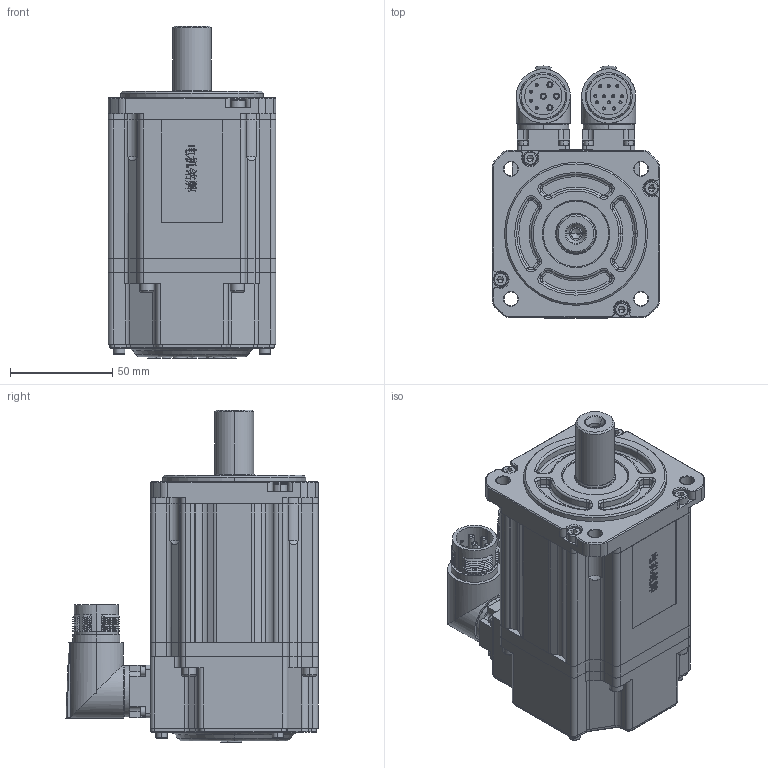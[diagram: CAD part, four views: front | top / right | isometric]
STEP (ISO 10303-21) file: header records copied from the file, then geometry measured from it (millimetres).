
FILE_DESCRIPTION (( 'STEP AP203' ), '1' );
FILE_NAME ('MC20-080-3L30-N751-0¡õPL-NNNN.STEP', '2025-09-19T07:41:29', ( '' ), ( '' ), 'SwSTEP 2.0', 'SolidWorks 2014', '' );
FILE_SCHEMA (( 'CONFIG_CONTROL_DESIGN' ));
Products named in the file (1): MC20-080-3L30-N751-0¡õPL-NNNN
Bounding box: 82 x 123.35 x 162.5 mm (x, y, z)
Volume: 867253.9 mm3; surface area: 142756.6 mm2
Topology: 27 solids, 27 shells, 2462 faces, 6054 edges, 3763 vertices
Faces by surface type: plane 1187, cylinder 540, cone 315, bspline 246, torus 174
Entity records: 80531 total; most frequent: CARTESIAN_POINT 23424, ORIENTED_EDGE 11960, DIRECTION 11509, EDGE_CURVE 5980, AXIS2_PLACEMENT_3D 4031, VERTEX_POINT 3763, LINE 3447, VECTOR 3447
